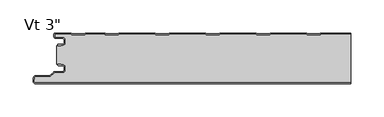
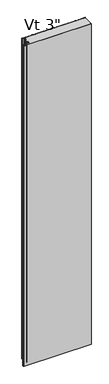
"""IFC4 building model written with IfcOpenShell, lengths in millimetres: plate geometry."""

from ifc_helpers import new_model, si_unit, point, frame, frame_2d, origin, origin_with_axes, place, context, project, spatial, polyline, circle_curve, trimmed, segment, composite_curve, outline, extrude, source, transform, mapped, element, save
from ifc_brep_helpers import plane_surface, cylinder_surface, revolved_surface, advanced_brep


def plate_87e27e4f(model_context):
    return source(origin(), model_context, "Body", "SolidModel", [
        advanced_brep(
        [(-219.9686911, -17.0015243, 2400.0), (-220.9686883, -18.0015275, 2400.0), (-219.9686911, -19.0015188, 2400.0), (-215.9684874, -19.0015188, 2400.0), (-215.9684874, -18.0015243, 2400.0), (-213.2762776, -18.0015243, 2400.0), (-209.9762819, -14.7015286, 2400.0), (-209.9762819, -10.3015374, 2400.0), (-213.2762774, -7.0015419, 2400.0), (-223.6962563, -7.0015419, 2400.0), (-225.4662505, -5.2315477, 2400.0), (-225.4662505, -1.0, 2400.0), (-200.9659739, -1.0, 2400.0), (-199.5803313, -2.2002391, 2400.0), (-180.205165, -2.2002391, 2400.0), (-178.819532, -1.0000084, 2400.0), (-150.1661166, -1.0000084, 2400.0), (-148.7804837, -2.2002391, 2400.0), (-129.4053174, -2.2002391, 2400.0), (-128.0196844, -1.0000084, 2400.0), (-73.966269, -1.0000084, 2400.0), (-72.5806361, -2.2002391, 2400.0), (-53.2054698, -2.2002391, 2400.0), (-51.8198368, -1.0000084, 2400.0), (2.2335786, -1.0000084, 2400.0), (3.6192115, -2.2002391, 2400.0), (22.9943778, -2.2002391, 2400.0), (24.3800108, -1.0000084, 2400.0), (78.4334262, -1.0000084, 2400.0), (79.8190591, -2.2002391, 2400.0), (99.1942254, -2.2002391, 2400.0), (100.5798584, -1.0000084, 2400.0), (154.6332738, -1.0000084, 2400.0), (156.0189067, -2.2002391, 2400.0), (175.394073, -2.2002391, 2400.0), (176.779706, -1.0000084, 2400.0), (221.9999998, -1.0000084, 2400.0), (221.9999998, -8.4e-06, 2400.0), (176.9288571, -8.4e-06, 2400.0), (176.0122402, -0.3417969, 2400.0), (175.0211926, -1.2002391, 2400.0), (156.3917872, -1.2002391, 2400.0), (155.4007395, -0.3417969, 2400.0), (154.4841226, -8.4e-06, 2400.0), (100.7290095, -8.4e-06, 2400.0), (99.8123926, -0.3417969, 2400.0), (98.821345, -1.2002391, 2400.0), (80.1919396, -1.2002391, 2400.0), (79.2008919, -0.3417969, 2400.0), (78.284275, -8.4e-06, 2400.0), (24.5291619, -8.4e-06, 2400.0), (23.612545, -0.3417969, 2400.0), (22.6214974, -1.2002391, 2400.0), (3.992092, -1.2002391, 2400.0), (3.0010443, -0.3417969, 2400.0), (2.0844274, -8.4e-06, 2400.0), (-51.6706857, -8.4e-06, 2400.0), (-52.5873026, -0.3417969, 2400.0), (-53.5783502, -1.2002391, 2400.0), (-72.2077556, -1.2002391, 2400.0), (-73.1988033, -0.3417969, 2400.0), (-74.1154202, -8.4e-06, 2400.0), (-127.8705333, -8.4e-06, 2400.0), (-128.7871502, -0.3417969, 2400.0), (-129.7781978, -1.2002391, 2400.0), (-148.4076032, -1.2002391, 2400.0), (-149.3986509, -0.3417969, 2400.0), (-150.3152678, -8.4e-06, 2400.0), (-178.6703809, -8.4e-06, 2400.0), (-179.5869978, -0.3417969, 2400.0), (-180.5780454, -1.2002391, 2400.0), (-199.2074508, -1.2002391, 2400.0), (-200.1984985, -0.3417969, 2400.0), (-201.1152068, -8.4e-06, 2400.0), (-225.0662544, 0.0, 2400.0), (-226.4662505, -1.3999962, 2400.0), (-226.4662505, -5.2315477, 2400.0), (-223.6962563, -8.0015419, 2400.0), (-213.2762774, -8.0015419, 2400.0), (-210.9762819, -10.3015374, 2400.0), (-210.9762819, -14.7015286, 2400.0), (-213.2762776, -17.0015243, 2400.0), (-219.9686911, -17.0015243, 0.0), (-213.2762776, -17.0015243, 0.0), (-210.9762819, -14.7015286, 0.0), (-210.9762819, -10.3015374, 0.0), (-213.2762774, -8.0015419, 0.0), (-223.6962563, -8.0015419, 0.0), (-226.4662505, -5.2315477, 0.0), (-226.4662505, -1.3999962, 0.0), (-225.0662544, 0.0, 0.0), (-201.1151154, 0.0, 0.0), (-200.1984985, -0.3417969, 0.0), (-199.2074508, -1.2002391, 0.0), (-180.5780454, -1.2002391, 0.0), (-179.5869978, -0.3417969, 0.0), (-178.6703809, -8.4e-06, 0.0), (-150.3152678, -8.4e-06, 0.0), (-149.3986509, -0.3417969, 0.0), (-148.4076032, -1.2002391, 0.0), (-129.7781978, -1.2002391, 0.0), (-128.7871502, -0.3417969, 0.0), (-127.8705333, -8.4e-06, 0.0), (-74.1154202, -8.4e-06, 0.0), (-73.1988033, -0.3417969, 0.0), (-72.2077556, -1.2002391, 0.0), (-53.5783502, -1.2002391, 0.0), (-52.5873026, -0.3417969, 0.0), (-51.6706857, -8.4e-06, 0.0), (2.0844274, -8.4e-06, 0.0), (3.0010443, -0.3417969, 0.0), (3.992092, -1.2002391, 0.0), (22.6214974, -1.2002391, 0.0), (23.612545, -0.3417969, 0.0), (24.5291619, -8.4e-06, 0.0), (78.284275, -8.4e-06, 0.0), (79.2008919, -0.3417969, 0.0), (80.1919396, -1.2002391, 0.0), (98.821345, -1.2002391, 0.0), (99.8123926, -0.3417969, 0.0), (100.7290095, -8.4e-06, 0.0), (154.4841226, -8.4e-06, 0.0), (155.4007395, -0.3417969, 0.0), (156.3917872, -1.2002391, 0.0), (175.0211926, -1.2002391, 0.0), (176.0122402, -0.3417969, 0.0), (176.9288571, -8.4e-06, 0.0), (221.9999998, -8.4e-06, 0.0), (221.9999998, -1.0000084, 0.0), (176.779706, -1.0000084, 0.0), (175.394073, -2.2002391, 0.0), (156.0189067, -2.2002391, 0.0), (154.6332738, -1.0000084, 0.0), (100.5798584, -1.0000084, 0.0), (99.1942254, -2.2002391, 0.0), (79.8190591, -2.2002391, 0.0), (78.4334262, -1.0000084, 0.0), (24.3800108, -1.0000084, 0.0), (22.9943778, -2.2002391, 0.0), (3.6192115, -2.2002391, 0.0), (2.2335786, -1.0000084, 0.0), (-51.8198368, -1.0000084, 0.0), (-53.2054698, -2.2002391, 0.0), (-72.5806361, -2.2002391, 0.0), (-73.966269, -1.0000084, 0.0), (-128.0196844, -1.0000084, 0.0), (-129.4053174, -2.2002391, 0.0), (-148.7804837, -2.2002391, 0.0), (-150.1661166, -1.0000084, 0.0), (-178.819532, -1.0000084, 0.0), (-180.205165, -2.2002391, 0.0), (-199.5803313, -2.2002391, 0.0), (-200.9659739, -1.0, 0.0), (-225.4662505, -1.0, 0.0), (-225.4662505, -5.2315477, 0.0), (-223.6962563, -7.0015419, 0.0), (-213.2762774, -7.0015419, 0.0), (-209.9762819, -10.3015374, 0.0), (-209.9762819, -14.7015286, 0.0), (-213.2762776, -18.0015243, 0.0), (-215.9684874, -18.0015243, 0.0), (-215.9684874, -19.0015188, 0.0), (-219.9686911, -19.0015188, 0.0), (-220.9686883, -18.0015275, 0.0)],
        [
            (0, 1, circle_curve(frame((-219.9686911, -18.0015215, 2400.0), z_axis=(0.0, 0.0, 1.0), x_axis=(1.0, 0.0, 0.0)), 0.9999973)),
            (1, 2, circle_curve(frame((-219.9686911, -18.0015216, 2400.0), z_axis=(0.0, 0.0, 1.0), x_axis=(1.0, 0.0, 0.0)), 0.9999972)),
            (2, 3),
            (3, 4),
            (4, 5),
            (5, 6, circle_curve(frame((-213.2762776, -14.7015286, 2400.0), z_axis=(0.0, 0.0, 1.0), x_axis=(1.0, 0.0, 0.0)), 3.2999957)),
            (6, 7),
            (7, 8, circle_curve(frame((-213.2762774, -10.3015374, 2400.0), z_axis=(0.0, 0.0, 1.0), x_axis=(1.0, 0.0, 0.0)), 3.2999955)),
            (8, 9),
            (9, 10, circle_curve(frame((-223.6962563, -5.2315477, 2400.0), z_axis=(0.0, 0.0, -1.0), x_axis=(1.0, 0.0, 0.0)), 1.7699942)),
            (10, 11),
            (11, 12),
            (12, 13),
            (13, 14),
            (14, 15),
            (15, 16),
            (16, 17),
            (17, 18),
            (18, 19),
            (19, 20),
            (20, 21),
            (21, 22),
            (22, 23),
            (23, 24),
            (24, 25),
            (25, 26),
            (26, 27),
            (27, 28),
            (28, 29),
            (29, 30),
            (30, 31),
            (31, 32),
            (32, 33),
            (33, 34),
            (34, 35),
            (35, 36),
            (36, 37),
            (37, 38),
            (38, 39, circle_curve(frame((176.9288571, -1.4000056, 2400.0), z_axis=(0.0, 0.0, 1.0), x_axis=(1.0, 0.0, 0.0)), 1.3999972)),
            (39, 40),
            (40, 41),
            (41, 42),
            (42, 43, circle_curve(frame((154.4841226, -1.4000056, 2400.0), z_axis=(0.0, 0.0, 1.0), x_axis=(1.0, 0.0, 0.0)), 1.3999972)),
            (43, 44),
            (44, 45, circle_curve(frame((100.7290095, -1.4000056, 2400.0), z_axis=(0.0, 0.0, 1.0), x_axis=(1.0, 0.0, 0.0)), 1.3999972)),
            (45, 46),
            (46, 47),
            (47, 48),
            (48, 49, circle_curve(frame((78.284275, -1.4000056, 2400.0), z_axis=(0.0, 0.0, 1.0), x_axis=(1.0, 0.0, 0.0)), 1.3999972)),
            (49, 50),
            (50, 51, circle_curve(frame((24.5291619, -1.4000056, 2400.0), z_axis=(0.0, 0.0, 1.0), x_axis=(1.0, 0.0, 0.0)), 1.3999972)),
            (51, 52),
            (52, 53),
            (53, 54),
            (54, 55, circle_curve(frame((2.0844274, -1.4000056, 2400.0), z_axis=(0.0, 0.0, 1.0), x_axis=(1.0, 0.0, 0.0)), 1.3999972)),
            (55, 56),
            (56, 57, circle_curve(frame((-51.6706857, -1.4000056, 2400.0), z_axis=(0.0, 0.0, 1.0), x_axis=(1.0, 0.0, 0.0)), 1.3999972)),
            (57, 58),
            (58, 59),
            (59, 60),
            (60, 61, circle_curve(frame((-74.1154202, -1.4000056, 2400.0), z_axis=(0.0, 0.0, 1.0), x_axis=(1.0, 0.0, 0.0)), 1.3999972)),
            (61, 62),
            (62, 63, circle_curve(frame((-127.8705333, -1.4000056, 2400.0), z_axis=(0.0, 0.0, 1.0), x_axis=(1.0, 0.0, 0.0)), 1.3999972)),
            (63, 64),
            (64, 65),
            (65, 66),
            (66, 67, circle_curve(frame((-150.3152678, -1.4000056, 2400.0), z_axis=(0.0, 0.0, 1.0), x_axis=(1.0, 0.0, 0.0)), 1.3999972)),
            (67, 68),
            (68, 69, circle_curve(frame((-178.6703809, -1.4000056, 2400.0), z_axis=(0.0, 0.0, 1.0), x_axis=(1.0, 0.0, 0.0)), 1.3999972)),
            (69, 70),
            (70, 71),
            (71, 72),
            (72, 73, circle_curve(frame((-201.1151154, -1.4000056, 2400.0), z_axis=(0.0, 0.0, 1.0), x_axis=(1.0, 0.0, 0.0)), 1.3999972)),
            (73, 74),
            (74, 75, circle_curve(frame((-225.0662544, -1.3999962, 2400.0), z_axis=(0.0, 0.0, 1.0), x_axis=(1.0, 0.0, 0.0)), 1.3999962)),
            (75, 76),
            (76, 77, circle_curve(frame((-223.6962563, -5.2315477, 2400.0), z_axis=(0.0, 0.0, 1.0), x_axis=(1.0, 0.0, 0.0)), 2.7699942)),
            (77, 78),
            (78, 79, circle_curve(frame((-213.2762774, -10.3015374, 2400.0), z_axis=(0.0, 0.0, -1.0), x_axis=(1.0, 0.0, 0.0)), 2.2999955)),
            (79, 80),
            (80, 81, circle_curve(frame((-213.2762776, -14.7015286, 2400.0), z_axis=(0.0, 0.0, -1.0), x_axis=(1.0, 0.0, 0.0)), 2.2999957)),
            (81, 0),
            (82, 83),
            (83, 84, circle_curve(frame((-213.2762776, -14.7015286, 0.0), z_axis=(0.0, 0.0, 1.0), x_axis=(1.0, 0.0, 0.0)), 2.2999957)),
            (84, 85),
            (85, 86, circle_curve(frame((-213.2762774, -10.3015374, 0.0), z_axis=(0.0, 0.0, 1.0), x_axis=(1.0, 0.0, 0.0)), 2.2999955)),
            (86, 87),
            (87, 88, circle_curve(frame((-223.6962563, -5.2315477, 0.0), z_axis=(0.0, 0.0, -1.0), x_axis=(1.0, 0.0, 0.0)), 2.7699942)),
            (88, 89),
            (89, 90, circle_curve(frame((-225.0662544, -1.3999962, 0.0), z_axis=(0.0, 0.0, -1.0), x_axis=(1.0, 0.0, 0.0)), 1.3999962)),
            (90, 91),
            (91, 92, circle_curve(frame((-201.1151154, -1.4000056, 0.0), z_axis=(0.0, 0.0, -1.0), x_axis=(1.0, 0.0, 0.0)), 1.3999972)),
            (92, 93),
            (93, 94),
            (94, 95),
            (95, 96, circle_curve(frame((-178.6703809, -1.4000056, 0.0), z_axis=(0.0, 0.0, -1.0), x_axis=(1.0, 0.0, 0.0)), 1.3999972)),
            (96, 97),
            (97, 98, circle_curve(frame((-150.3152678, -1.4000056, 0.0), z_axis=(0.0, 0.0, -1.0), x_axis=(1.0, 0.0, 0.0)), 1.3999972)),
            (98, 99),
            (99, 100),
            (100, 101),
            (101, 102, circle_curve(frame((-127.8705333, -1.4000056, 0.0), z_axis=(0.0, 0.0, -1.0), x_axis=(1.0, 0.0, 0.0)), 1.3999972)),
            (102, 103),
            (103, 104, circle_curve(frame((-74.1154202, -1.4000056, 0.0), z_axis=(0.0, 0.0, -1.0), x_axis=(1.0, 0.0, 0.0)), 1.3999972)),
            (104, 105),
            (105, 106),
            (106, 107),
            (107, 108, circle_curve(frame((-51.6706857, -1.4000056, 0.0), z_axis=(0.0, 0.0, -1.0), x_axis=(1.0, 0.0, 0.0)), 1.3999972)),
            (108, 109),
            (109, 110, circle_curve(frame((2.0844274, -1.4000056, 0.0), z_axis=(0.0, 0.0, -1.0), x_axis=(1.0, 0.0, 0.0)), 1.3999972)),
            (110, 111),
            (111, 112),
            (112, 113),
            (113, 114, circle_curve(frame((24.5291619, -1.4000056, 0.0), z_axis=(0.0, 0.0, -1.0), x_axis=(1.0, 0.0, 0.0)), 1.3999972)),
            (114, 115),
            (115, 116, circle_curve(frame((78.284275, -1.4000056, 0.0), z_axis=(0.0, 0.0, -1.0), x_axis=(1.0, 0.0, 0.0)), 1.3999972)),
            (116, 117),
            (117, 118),
            (118, 119),
            (119, 120, circle_curve(frame((100.7290095, -1.4000056, 0.0), z_axis=(0.0, 0.0, -1.0), x_axis=(1.0, 0.0, 0.0)), 1.3999972)),
            (120, 121),
            (121, 122, circle_curve(frame((154.4841226, -1.4000056, 0.0), z_axis=(0.0, 0.0, -1.0), x_axis=(1.0, 0.0, 0.0)), 1.3999972)),
            (122, 123),
            (123, 124),
            (124, 125),
            (125, 126, circle_curve(frame((176.9288571, -1.4000056, 0.0), z_axis=(0.0, 0.0, -1.0), x_axis=(1.0, 0.0, 0.0)), 1.3999972)),
            (126, 127),
            (127, 128),
            (128, 129),
            (129, 130),
            (130, 131),
            (131, 132),
            (132, 133),
            (133, 134),
            (134, 135),
            (135, 136),
            (136, 137),
            (137, 138),
            (138, 139),
            (139, 140),
            (140, 141),
            (141, 142),
            (142, 143),
            (143, 144),
            (144, 145),
            (145, 146),
            (146, 147),
            (147, 148),
            (148, 149),
            (149, 150),
            (150, 151),
            (151, 152),
            (152, 153),
            (153, 154),
            (154, 155, circle_curve(frame((-223.6962563, -5.2315477, 0.0), z_axis=(0.0, 0.0, 1.0), x_axis=(1.0, 0.0, 0.0)), 1.7699942)),
            (155, 156),
            (156, 157, circle_curve(frame((-213.2762774, -10.3015374, 0.0), z_axis=(0.0, 0.0, -1.0), x_axis=(1.0, 0.0, 0.0)), 3.2999955)),
            (157, 158),
            (158, 159, circle_curve(frame((-213.2762776, -14.7015286, 0.0), z_axis=(0.0, 0.0, -1.0), x_axis=(1.0, 0.0, 0.0)), 3.2999957)),
            (159, 160),
            (160, 161),
            (161, 162),
            (162, 163, circle_curve(frame((-219.9686911, -18.0015216, 0.0), z_axis=(0.0, 0.0, -1.0), x_axis=(1.0, 0.0, 0.0)), 0.9999972)),
            (163, 82, circle_curve(frame((-219.9686911, -18.0015215, 0.0), z_axis=(0.0, 0.0, -1.0), x_axis=(1.0, 0.0, 0.0)), 0.9999973)),
            (36, 128),
            (127, 37),
            (81, 83),
            (82, 0),
            (80, 84),
            (79, 85),
            (78, 86),
            (77, 87),
            (76, 88),
            (75, 89),
            (74, 90),
            (73, 91),
            (72, 92),
            (71, 93),
            (70, 94),
            (69, 95),
            (68, 96),
            (67, 97),
            (66, 98),
            (65, 99),
            (64, 100),
            (63, 101),
            (62, 102),
            (61, 103),
            (60, 104),
            (59, 105),
            (58, 106),
            (57, 107),
            (56, 108),
            (55, 109),
            (54, 110),
            (53, 111),
            (52, 112),
            (51, 113),
            (50, 114),
            (49, 115),
            (48, 116),
            (47, 117),
            (46, 118),
            (45, 119),
            (44, 120),
            (43, 121),
            (42, 122),
            (41, 123),
            (40, 124),
            (39, 125),
            (38, 126),
            (35, 129),
            (34, 130),
            (33, 131),
            (32, 132),
            (31, 133),
            (30, 134),
            (29, 135),
            (28, 136),
            (27, 137),
            (26, 138),
            (25, 139),
            (24, 140),
            (23, 141),
            (22, 142),
            (21, 143),
            (20, 144),
            (19, 145),
            (18, 146),
            (17, 147),
            (16, 148),
            (15, 149),
            (14, 150),
            (13, 151),
            (12, 152),
            (11, 153),
            (10, 154),
            (9, 155),
            (8, 156),
            (7, 157),
            (6, 158),
            (5, 159),
            (4, 160),
            (3, 161),
            (2, 162),
            (1, 163),
        ],
        [
            plane_surface(frame((286.0000002, -8.4e-06, 2400.0), z_axis=(0.0, 0.0, 1.0), x_axis=(0.0, 1.0, 0.0))),
            plane_surface(frame((286.0000002, -8.4e-06, 0.0), z_axis=(0.0, 0.0, -1.0), x_axis=(0.0, 1.0, 0.0))),
            plane_surface(frame((221.9999998, -86.2000084, 2400.0), z_axis=(1.0, 0.0, 0.0), x_axis=(0.0, 0.0, -1.0))),
            plane_surface(frame((-219.9686911, -17.0015243, 2400.0), z_axis=(0.0, 1.0, 0.0), x_axis=(0.0, 0.0, -1.0))),
            revolved_surface(polyline([(-210.97628189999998, -14.7015286, 0.0), (-210.97628189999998, -14.7015286, 2400.0)]), (-213.2762776, -14.7015286, 2400.0), (0.0, 0.0, -1.0)),
            plane_surface(frame((-210.9762819, -14.7015286, 2400.0), z_axis=(-1.0, 0.0, 0.0), x_axis=(0.0, 0.0, -1.0))),
            revolved_surface(polyline([(-210.9762819, -10.3015374, 0.0), (-210.9762819, -10.3015374, 2400.0)]), (-213.2762774, -10.3015374, 2400.0), (0.0, 0.0, -1.0)),
            plane_surface(frame((-213.2762774, -8.0015419, 2400.0), z_axis=(0.0, -1.0, 0.0), x_axis=(0.0, 0.0, -1.0))),
            cylinder_surface(frame((-223.6962563, -5.2315477, 2400.0), z_axis=(0.0, 0.0, 1.0), x_axis=(1.0, 0.0, 0.0)), 2.7699942),
            plane_surface(frame((-226.4662505, -5.2315477, 2400.0), z_axis=(-1.0, 0.0, 0.0), x_axis=(0.0, 0.0, -1.0))),
            cylinder_surface(frame((-225.0662544, -1.3999962, 2400.0), z_axis=(0.0, 0.0, 1.0), x_axis=(1.0, 0.0, 0.0)), 1.3999962),
            plane_surface(frame((-225.0662544, 0.0, 2400.0), z_axis=(0.0, 1.0, 0.0), x_axis=(0.0, 0.0, -1.0))),
            cylinder_surface(frame((-201.1151154, -1.4000056, 2400.0), z_axis=(0.0, 0.0, 1.0), x_axis=(1.0, 0.0, 0.0)), 1.3999972),
            plane_surface(frame((-200.1984985, -0.3417969, 2400.0), z_axis=(0.6547276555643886, 0.755864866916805, 0.0), x_axis=(0.0, 0.0, -1.0))),
            plane_surface(frame((-189.8927481, -1.2002391, 2400.0), z_axis=(0.0, 1.0, 0.0), x_axis=(0.0, 0.0, -1.0))),
            plane_surface(frame((-180.5780454, -1.2002391, 2400.0), z_axis=(-0.6547276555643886, 0.755864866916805, 0.0), x_axis=(0.0, 0.0, -1.0))),
            cylinder_surface(frame((-178.6703809, -1.4000056, 2400.0), z_axis=(0.0, 0.0, 1.0), x_axis=(1.0, 0.0, 0.0)), 1.3999972),
            plane_surface(frame((-178.6703809, -8.4e-06, 2400.0), z_axis=(0.0, 1.0, 0.0), x_axis=(0.0, 0.0, -1.0))),
            cylinder_surface(frame((-150.3152678, -1.4000056, 2400.0), z_axis=(0.0, 0.0, 1.0), x_axis=(1.0, 0.0, 0.0)), 1.3999972),
            plane_surface(frame((-149.3986509, -0.3417969, 2400.0), z_axis=(0.6547276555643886, 0.755864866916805, 0.0), x_axis=(0.0, 0.0, -1.0))),
            plane_surface(frame((-139.0929005, -1.2002391, 2400.0), z_axis=(0.0, 1.0, 0.0), x_axis=(0.0, 0.0, -1.0))),
            plane_surface(frame((-129.7781978, -1.2002391, 2400.0), z_axis=(-0.6547276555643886, 0.755864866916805, 0.0), x_axis=(0.0, 0.0, -1.0))),
            cylinder_surface(frame((-127.8705333, -1.4000056, 2400.0), z_axis=(0.0, 0.0, 1.0), x_axis=(1.0, 0.0, 0.0)), 1.3999972),
            plane_surface(frame((-127.8705333, -8.4e-06, 2400.0), z_axis=(0.0, 1.0, 0.0), x_axis=(0.0, 0.0, -1.0))),
            cylinder_surface(frame((-74.1154202, -1.4000056, 2400.0), z_axis=(0.0, 0.0, 1.0), x_axis=(1.0, 0.0, 0.0)), 1.3999972),
            plane_surface(frame((-73.1988033, -0.3417969, 2400.0), z_axis=(0.6547276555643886, 0.755864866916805, 0.0), x_axis=(0.0, 0.0, -1.0))),
            plane_surface(frame((-62.8930529, -1.2002391, 2400.0), z_axis=(0.0, 1.0, 0.0), x_axis=(0.0, 0.0, -1.0))),
            plane_surface(frame((-53.5783502, -1.2002391, 2400.0), z_axis=(-0.6547276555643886, 0.755864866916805, 0.0), x_axis=(0.0, 0.0, -1.0))),
            cylinder_surface(frame((-51.6706857, -1.4000056, 2400.0), z_axis=(0.0, 0.0, 1.0), x_axis=(1.0, 0.0, 0.0)), 1.3999972),
            plane_surface(frame((-51.6706857, -8.4e-06, 2400.0), z_axis=(0.0, 1.0, 0.0), x_axis=(0.0, 0.0, -1.0))),
            cylinder_surface(frame((2.0844274, -1.4000056, 2400.0), z_axis=(0.0, 0.0, 1.0), x_axis=(1.0, 0.0, 0.0)), 1.3999972),
            plane_surface(frame((3.0010443, -0.3417969, 2400.0), z_axis=(0.6547276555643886, 0.755864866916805, 0.0), x_axis=(0.0, 0.0, -1.0))),
            plane_surface(frame((13.3067947, -1.2002391, 2400.0), z_axis=(0.0, 1.0, 0.0), x_axis=(0.0, 0.0, -1.0))),
            plane_surface(frame((22.6214974, -1.2002391, 2400.0), z_axis=(-0.6547276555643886, 0.755864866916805, 0.0), x_axis=(0.0, 0.0, -1.0))),
            cylinder_surface(frame((24.5291619, -1.4000056, 2400.0), z_axis=(0.0, 0.0, 1.0), x_axis=(1.0, 0.0, 0.0)), 1.3999972),
            plane_surface(frame((24.5291619, -8.4e-06, 2400.0), z_axis=(0.0, 1.0, 0.0), x_axis=(0.0, 0.0, -1.0))),
            cylinder_surface(frame((78.284275, -1.4000056, 2400.0), z_axis=(0.0, 0.0, 1.0), x_axis=(1.0, 0.0, 0.0)), 1.3999972),
            plane_surface(frame((79.2008919, -0.3417969, 2400.0), z_axis=(0.6547276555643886, 0.755864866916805, 0.0), x_axis=(0.0, 0.0, -1.0))),
            plane_surface(frame((89.5066423, -1.2002391, 2400.0), z_axis=(0.0, 1.0, 0.0), x_axis=(0.0, 0.0, -1.0))),
            plane_surface(frame((98.821345, -1.2002391, 2400.0), z_axis=(-0.6547276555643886, 0.755864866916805, 0.0), x_axis=(0.0, 0.0, -1.0))),
            cylinder_surface(frame((100.7290095, -1.4000056, 2400.0), z_axis=(0.0, 0.0, 1.0), x_axis=(1.0, 0.0, 0.0)), 1.3999972),
            plane_surface(frame((100.7290095, -8.4e-06, 2400.0), z_axis=(0.0, 1.0, 0.0), x_axis=(0.0, 0.0, -1.0))),
            cylinder_surface(frame((154.4841226, -1.4000056, 2400.0), z_axis=(0.0, 0.0, 1.0), x_axis=(1.0, 0.0, 0.0)), 1.3999972),
            plane_surface(frame((155.4007395, -0.3417969, 2400.0), z_axis=(0.6547276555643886, 0.755864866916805, 0.0), x_axis=(0.0, 0.0, -1.0))),
            plane_surface(frame((165.7064899, -1.2002391, 2400.0), z_axis=(0.0, 1.0, 0.0), x_axis=(0.0, 0.0, -1.0))),
            plane_surface(frame((175.0211926, -1.2002391, 2400.0), z_axis=(-0.6547276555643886, 0.755864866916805, 0.0), x_axis=(0.0, 0.0, -1.0))),
            cylinder_surface(frame((176.9288571, -1.4000056, 2400.0), z_axis=(0.0, 0.0, 1.0), x_axis=(1.0, 0.0, 0.0)), 1.3999972),
            plane_surface(frame((176.9288571, -8.4e-06, 2400.0), z_axis=(0.0, 1.0, 0.0), x_axis=(0.0, 0.0, -1.0))),
            plane_surface(frame((230.8331214, -1.0000084, 2400.0), z_axis=(0.0, -1.0, 0.0), x_axis=(0.0, 0.0, -1.0))),
            plane_surface(frame((176.779706, -1.0000084, 2400.0), z_axis=(0.6547276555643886, -0.755864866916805, 0.0), x_axis=(0.0, 0.0, -1.0))),
            plane_surface(frame((175.394073, -2.2002391, 2400.0), z_axis=(0.0, -1.0, 0.0), x_axis=(0.0, 0.0, -1.0))),
            plane_surface(frame((156.0189067, -2.2002391, 2400.0), z_axis=(-0.6547276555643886, -0.755864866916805, 0.0), x_axis=(0.0, 0.0, -1.0))),
            plane_surface(frame((154.6332738, -1.0000084, 2400.0), z_axis=(0.0, -1.0, 0.0), x_axis=(0.0, 0.0, -1.0))),
            plane_surface(frame((100.5798584, -1.0000084, 2400.0), z_axis=(0.6547276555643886, -0.755864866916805, 0.0), x_axis=(0.0, 0.0, -1.0))),
            plane_surface(frame((99.1942254, -2.2002391, 2400.0), z_axis=(0.0, -1.0, 0.0), x_axis=(0.0, 0.0, -1.0))),
            plane_surface(frame((79.8190591, -2.2002391, 2400.0), z_axis=(-0.6547276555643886, -0.755864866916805, 0.0), x_axis=(0.0, 0.0, -1.0))),
            plane_surface(frame((78.4334262, -1.0000084, 2400.0), z_axis=(0.0, -1.0, 0.0), x_axis=(0.0, 0.0, -1.0))),
            plane_surface(frame((24.3800108, -1.0000084, 2400.0), z_axis=(0.6547276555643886, -0.755864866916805, 0.0), x_axis=(0.0, 0.0, -1.0))),
            plane_surface(frame((22.9943778, -2.2002391, 2400.0), z_axis=(0.0, -1.0, 0.0), x_axis=(0.0, 0.0, -1.0))),
            plane_surface(frame((3.6192115, -2.2002391, 2400.0), z_axis=(-0.6547276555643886, -0.755864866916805, 0.0), x_axis=(0.0, 0.0, -1.0))),
            plane_surface(frame((2.2335786, -1.0000084, 2400.0), z_axis=(0.0, -1.0, 0.0), x_axis=(0.0, 0.0, -1.0))),
            plane_surface(frame((-51.8198368, -1.0000084, 2400.0), z_axis=(0.6547276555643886, -0.755864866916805, 0.0), x_axis=(0.0, 0.0, -1.0))),
            plane_surface(frame((-53.2054698, -2.2002391, 2400.0), z_axis=(0.0, -1.0, 0.0), x_axis=(0.0, 0.0, -1.0))),
            plane_surface(frame((-72.5806361, -2.2002391, 2400.0), z_axis=(-0.6547276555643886, -0.755864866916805, 0.0), x_axis=(0.0, 0.0, -1.0))),
            plane_surface(frame((-73.966269, -1.0000084, 2400.0), z_axis=(0.0, -1.0, 0.0), x_axis=(0.0, 0.0, -1.0))),
            plane_surface(frame((-128.0196844, -1.0000084, 2400.0), z_axis=(0.6547276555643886, -0.755864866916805, 0.0), x_axis=(0.0, 0.0, -1.0))),
            plane_surface(frame((-129.4053174, -2.2002391, 2400.0), z_axis=(0.0, -1.0, 0.0), x_axis=(0.0, 0.0, -1.0))),
            plane_surface(frame((-148.7804837, -2.2002391, 2400.0), z_axis=(-0.6547276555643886, -0.755864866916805, 0.0), x_axis=(0.0, 0.0, -1.0))),
            plane_surface(frame((-150.1661166, -1.0000084, 2400.0), z_axis=(0.0, -1.0, 0.0), x_axis=(0.0, 0.0, -1.0))),
            plane_surface(frame((-178.819532, -1.0000084, 2400.0), z_axis=(0.6547276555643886, -0.755864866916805, 0.0), x_axis=(0.0, 0.0, -1.0))),
            plane_surface(frame((-180.205165, -2.2002391, 2400.0), z_axis=(0.0, -1.0, 0.0), x_axis=(0.0, 0.0, -1.0))),
            plane_surface(frame((-199.5803313, -2.2002391, 2400.0), z_axis=(-0.6547276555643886, -0.755864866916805, 0.0), x_axis=(0.0, 0.0, -1.0))),
            plane_surface(frame((-200.9659739, -1.0, 2400.0), z_axis=(0.0, -1.0, 0.0), x_axis=(0.0, 0.0, -1.0))),
            plane_surface(frame((-225.4662505, -1.0, 2400.0), z_axis=(1.0, 0.0, 0.0), x_axis=(0.0, 0.0, -1.0))),
            revolved_surface(polyline([(-221.92626209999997, -5.2315477, 0.0), (-221.92626209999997, -5.2315477, 2400.0)]), (-223.6962563, -5.2315477, 2400.0), (0.0, 0.0, -1.0)),
            plane_surface(frame((-223.6962563, -7.0015419, 2400.0), z_axis=(0.0, 1.0, 0.0), x_axis=(0.0, 0.0, -1.0))),
            cylinder_surface(frame((-213.2762774, -10.3015374, 2400.0), z_axis=(0.0, 0.0, 1.0), x_axis=(1.0, 0.0, 0.0)), 3.2999955),
            plane_surface(frame((-209.9762819, -10.3015374, 2400.0), z_axis=(1.0, 0.0, 0.0), x_axis=(0.0, 0.0, -1.0))),
            cylinder_surface(frame((-213.2762776, -14.7015286, 2400.0), z_axis=(0.0, 0.0, 1.0), x_axis=(1.0, 0.0, 0.0)), 3.2999957),
            plane_surface(frame((-213.2762776, -18.0015243, 2400.0), z_axis=(0.0, -1.0, 0.0), x_axis=(0.0, 0.0, -1.0))),
            plane_surface(frame((-215.9684874, -18.0015243, 2400.0), z_axis=(1.0, 0.0, 0.0), x_axis=(0.0, 0.0, -1.0))),
            plane_surface(frame((-215.9684874, -19.0015188, 2400.0), z_axis=(0.0, -1.0, 0.0), x_axis=(0.0, 0.0, -1.0))),
            cylinder_surface(frame((-219.9686911, -18.0015216, 2400.0), z_axis=(0.0, 0.0, 1.0), x_axis=(1.0, 0.0, 0.0)), 0.9999972),
            cylinder_surface(frame((-219.9686911, -18.0015215, 2400.0), z_axis=(0.0, 0.0, 1.0), x_axis=(1.0, 0.0, 0.0)), 0.9999973),
        ],
        [
            (0, [[1, 2, 3, 4, 5, 6, 7, 8, 9, 10, 11, 12, 13, 14, 15, 16, 17, 18, 19, 20, 21, 22, 23, 24, 25, 26, 27, 28, 29, 30, 31, 32, 33, 34, 35, 36, 37, 38, 39, 40, 41, 42, 43, 44, 45, 46, 47, 48, 49, 50, 51, 52, 53, 54, 55, 56, 57, 58, 59, 60, 61, 62, 63, 64, 65, 66, 67, 68, 69, 70, 71, 72, 73, 74, 75, 76, 77, 78, 79, 80, 81, 82]]),
            (1, [[83, 84, 85, 86, 87, 88, 89, 90, 91, 92, 93, 94, 95, 96, 97, 98, 99, 100, 101, 102, 103, 104, 105, 106, 107, 108, 109, 110, 111, 112, 113, 114, 115, 116, 117, 118, 119, 120, 121, 122, 123, 124, 125, 126, 127, 128, 129, 130, 131, 132, 133, 134, 135, 136, 137, 138, 139, 140, 141, 142, 143, 144, 145, 146, 147, 148, 149, 150, 151, 152, 153, 154, 155, 156, 157, 158, 159, 160, 161, 162, 163, 164]]),
            (2, [[165, -128, 166, -37]]),
            (3, [[167, -83, 168, -82]]),
            (4, [[169, -84, -167, -81]]),
            (5, [[170, -85, -169, -80]]),
            (6, [[171, -86, -170, -79]]),
            (7, [[172, -87, -171, -78]]),
            (8, [[173, -88, -172, -77]]),
            (9, [[174, -89, -173, -76]]),
            (10, [[175, -90, -174, -75]]),
            (11, [[176, -91, -175, -74]]),
            (12, [[177, -92, -176, -73]]),
            (13, [[178, -93, -177, -72]]),
            (14, [[179, -94, -178, -71]]),
            (15, [[180, -95, -179, -70]]),
            (16, [[181, -96, -180, -69]]),
            (17, [[182, -97, -181, -68]]),
            (18, [[183, -98, -182, -67]]),
            (19, [[184, -99, -183, -66]]),
            (20, [[185, -100, -184, -65]]),
            (21, [[186, -101, -185, -64]]),
            (22, [[187, -102, -186, -63]]),
            (23, [[188, -103, -187, -62]]),
            (24, [[189, -104, -188, -61]]),
            (25, [[190, -105, -189, -60]]),
            (26, [[191, -106, -190, -59]]),
            (27, [[192, -107, -191, -58]]),
            (28, [[193, -108, -192, -57]]),
            (29, [[194, -109, -193, -56]]),
            (30, [[195, -110, -194, -55]]),
            (31, [[196, -111, -195, -54]]),
            (32, [[197, -112, -196, -53]]),
            (33, [[198, -113, -197, -52]]),
            (34, [[199, -114, -198, -51]]),
            (35, [[200, -115, -199, -50]]),
            (36, [[201, -116, -200, -49]]),
            (37, [[202, -117, -201, -48]]),
            (38, [[203, -118, -202, -47]]),
            (39, [[204, -119, -203, -46]]),
            (40, [[205, -120, -204, -45]]),
            (41, [[206, -121, -205, -44]]),
            (42, [[207, -122, -206, -43]]),
            (43, [[208, -123, -207, -42]]),
            (44, [[209, -124, -208, -41]]),
            (45, [[210, -125, -209, -40]]),
            (46, [[211, -126, -210, -39]]),
            (47, [[-38, -166, -127, -211]]),
            (48, [[-129, -165, -36, 212]]),
            (49, [[213, -130, -212, -35]]),
            (50, [[214, -131, -213, -34]]),
            (51, [[215, -132, -214, -33]]),
            (52, [[216, -133, -215, -32]]),
            (53, [[217, -134, -216, -31]]),
            (54, [[218, -135, -217, -30]]),
            (55, [[219, -136, -218, -29]]),
            (56, [[220, -137, -219, -28]]),
            (57, [[221, -138, -220, -27]]),
            (58, [[222, -139, -221, -26]]),
            (59, [[223, -140, -222, -25]]),
            (60, [[224, -141, -223, -24]]),
            (61, [[225, -142, -224, -23]]),
            (62, [[226, -143, -225, -22]]),
            (63, [[227, -144, -226, -21]]),
            (64, [[228, -145, -227, -20]]),
            (65, [[229, -146, -228, -19]]),
            (66, [[230, -147, -229, -18]]),
            (67, [[231, -148, -230, -17]]),
            (68, [[232, -149, -231, -16]]),
            (69, [[233, -150, -232, -15]]),
            (70, [[234, -151, -233, -14]]),
            (71, [[235, -152, -234, -13]]),
            (72, [[236, -153, -235, -12]]),
            (73, [[237, -154, -236, -11]]),
            (74, [[238, -155, -237, -10]]),
            (75, [[239, -156, -238, -9]]),
            (76, [[240, -157, -239, -8]]),
            (77, [[241, -158, -240, -7]]),
            (78, [[242, -159, -241, -6]]),
            (79, [[243, -160, -242, -5]]),
            (80, [[244, -161, -243, -4]]),
            (81, [[245, -162, -244, -3]]),
            (82, [[246, -163, -245, -2]]),
            (83, [[-168, -164, -246, -1]]),
        ],
    ),
        extrude(outline(composite_curve([segment(polyline([(-258.0087619, -72.3184987), (-257.5690674, -67.2944521)]), True, "CONTINUOUS"), segment(trimmed(circle_curve(frame_2d((-253.9198391, -67.9052532)), 3.6999926), [point((-257.5690674, -67.2944521))], [point((-253.9198391, -64.2052606))], False, "CARTESIAN"), True, "CONTINUOUS"), segment(polyline([(-253.9198391, -64.2052606), (-232.7773995, -64.2052606)]), True, "CONTINUOUS"), segment(trimmed(circle_curve(frame_2d((-232.7773995, -62.9052632)), 1.2999974), [point((-232.7773995, -64.2052606))], [point((-231.8581626, -63.8245001))], True, "CARTESIAN"), True, "CONTINUOUS"), segment(polyline([(-231.8581626, -63.8245001), (-227.0297451, -58.9960827)]), True, "CONTINUOUS"), segment(trimmed(circle_curve(frame_2d((-225.1205606, -60.9052672)), 2.6999946), [point((-227.0297451, -58.9960827))], [point((-225.1205606, -58.2052726))], False, "CARTESIAN"), True, "CONTINUOUS"), segment(polyline([(-225.1205606, -58.2052726), (-213.3096715, -58.2052726)]), True, "CONTINUOUS"), segment(trimmed(circle_curve(frame_2d((-213.3096715, -55.8552773)), 2.3499953), [point((-213.3096715, -58.2052726))], [point((-210.9596762, -55.8552773))], True, "CARTESIAN"), True, "CONTINUOUS"), segment(polyline([(-210.9596762, -55.8552773), (-210.9596762, -51.4552861)]), True, "CONTINUOUS"), segment(trimmed(circle_curve(frame_2d((-213.3096715, -51.4552861)), 2.3499953), [point((-210.9596762, -51.4552861))], [point((-213.3096715, -49.1052908))], True, "CARTESIAN"), True, "CONTINUOUS"), segment(polyline([(-213.3096715, -49.1052908), (-219.8289777, -49.1052908)]), True, "CONTINUOUS"), segment(trimmed(circle_curve(frame_2d((-219.7686906, -47.9068085)), 1.1999976), [point((-219.8289777, -49.1052908))], [point((-220.9683, -47.8762866))], False, "CARTESIAN"), True, "CONTINUOUS"), segment(trimmed(circle_curve(frame_2d((-219.7686906, -47.9068085)), 1.1999976), [point((-220.9683, -47.8762866))], [point((-219.767176, -46.7068119))], False, "CARTESIAN"), True, "CONTINUOUS"), segment(polyline([(-219.767176, -46.7068119), (-216.0087826, -46.7068119), (-216.0087826, -48.1052908), (-213.3096715, -48.1052908)]), True, "CONTINUOUS"), segment(trimmed(circle_curve(frame_2d((-213.3096715, -51.4552861)), 3.3499953), [point((-213.3096715, -48.1052908))], [point((-209.9596762, -51.4552861))], False, "CARTESIAN"), True, "CONTINUOUS"), segment(polyline([(-209.9596762, -51.4552861), (-209.9596762, -55.8552773)]), True, "CONTINUOUS"), segment(trimmed(circle_curve(frame_2d((-213.3096715, -55.8552773)), 3.3499953), [point((-209.9596762, -55.8552773))], [point((-213.3096715, -59.2052726))], False, "CARTESIAN"), True, "CONTINUOUS"), segment(polyline([(-213.3096715, -59.2052726), (-225.1205606, -59.2052726)]), True, "CONTINUOUS"), segment(trimmed(circle_curve(frame_2d((-225.1205606, -60.9052672)), 1.6999946), [point((-225.1205606, -59.2052726))], [point((-226.3226383, -59.7031895))], True, "CARTESIAN"), True, "CONTINUOUS"), segment(polyline([(-226.3226383, -59.7031895), (-231.8247094, -65.2052606), (-253.9198391, -65.2052606)]), True, "CONTINUOUS"), segment(trimmed(circle_curve(frame_2d((-253.9198391, -67.9052532)), 2.6999926), [point((-253.9198391, -65.2052606))], [point((-256.5765707, -67.4238626))], True, "CARTESIAN"), True, "CONTINUOUS"), segment(polyline([(-256.5765707, -67.4238626), (-257.0125697, -72.4056834)]), True, "CONTINUOUS"), segment(trimmed(circle_curve(frame_2d((-254.4521175, -72.6297691)), 2.5702393), [point((-257.0125697, -72.4056834))], [point((-254.5094458, -75.1993689))], True, "CARTESIAN"), True, "CONTINUOUS"), segment(polyline([(-254.5094458, -75.1993689), (221.9999998, -75.1993689), (221.9999998, -76.1997037), (-254.4521152, -76.2000084)]), True, "CONTINUOUS"), segment(trimmed(circle_curve(frame_2d((-254.4521175, -72.6297691)), 3.5702393), [point((-254.4521152, -76.2000084))], [point((-258.0087619, -72.3184987))], False, "CARTESIAN"), True, "CONTINUOUS")], self_intersect=False)), origin_with_axes(), (0.0, 0.0, 1.0), 2400.0),
        advanced_brep(
        [(-220.9683, -47.8708833, 2400.0), (-219.767176, -46.7014086, 2400.0), (-216.0087826, -46.7014086, 2400.0), (-216.0087826, -48.0998875, 2400.0), (-213.3096715, -48.0998875, 2400.0), (-209.9596762, -51.4498828, 2400.0), (-209.9596762, -55.849874, 2400.0), (-213.3096715, -59.1998693, 2400.0), (-225.1205606, -59.1998693, 2400.0), (-226.3226383, -59.6977862, 2400.0), (-231.8247094, -65.1998573, 2400.0), (-253.9198391, -65.1998573, 2400.0), (-256.5765707, -67.4184593, 2400.0), (-257.0125697, -72.4002802, 2400.0), (-254.4521175, -75.1946051, 2400.0), (221.9999998, -75.2000084, 2400.0), (221.9999998, -1.0000084, 2400.0), (176.779706, -1.0000084, 2400.0), (175.3940731, -2.2002391, 2400.0), (156.0189068, -2.2002391, 2400.0), (154.6332738, -1.0000084, 2400.0), (100.5798584, -1.0000084, 2400.0), (99.1942255, -2.2002391, 2400.0), (79.8190592, -2.2002391, 2400.0), (78.4334262, -1.0000084, 2400.0), (24.3800108, -1.0000084, 2400.0), (22.9943779, -2.2002391, 2400.0), (3.6192116, -2.2002391, 2400.0), (2.2335786, -1.0000084, 2400.0), (-51.8198368, -1.0000084, 2400.0), (-53.2054697, -2.2002391, 2400.0), (-72.580636, -2.2002391, 2400.0), (-73.966269, -1.0000084, 2400.0), (-128.0196844, -1.0000084, 2400.0), (-129.4053173, -2.2002391, 2400.0), (-148.7804836, -2.2002391, 2400.0), (-150.1661166, -1.0000084, 2400.0), (-178.819532, -1.0000084, 2400.0), (-180.2051649, -2.2002391, 2400.0), (-199.5803312, -2.2002391, 2400.0), (-200.9659738, -1.0, 2400.0), (-225.4662505, -1.0, 2400.0), (-225.4662505, -5.2315473, 2400.0), (-223.6962563, -7.0015415, 2400.0), (-213.2762777, -7.0015415, 2400.0), (-209.9762819, -10.3015374, 2400.0), (-209.9762819, -14.7015286, 2400.0), (-213.2762776, -18.0015243, 2400.0), (-215.9684874, -18.0015243, 2400.0), (-215.9684874, -19.0015188, 2400.0), (-219.968691, -19.0015188, 2400.0), (-220.9686882, -18.0015275, 2400.0), (-221.9999998, -19.0328392, 2400.0), (-221.9999998, -46.8391835, 2400.0), (-220.9683, -47.8708833, 0.0), (-221.9999998, -46.8391835, 0.0), (-221.9999998, -19.0328392, 0.0), (-220.9686882, -18.0015275, 0.0), (-219.968691, -19.0015188, 0.0), (-215.9684874, -19.0015188, 0.0), (-215.9684874, -18.0015243, 0.0), (-213.2762776, -18.0015243, 0.0), (-209.9762819, -14.7015286, 0.0), (-209.9762819, -10.3015374, 0.0), (-213.2762777, -7.0015415, 0.0), (-223.6962563, -7.0015415, 0.0), (-225.4662505, -5.2315473, 0.0), (-225.4662505, -1.0, 0.0), (-200.9659738, -1.0, 0.0), (-199.5803312, -2.2002391, 0.0), (-180.2051649, -2.2002391, 0.0), (-178.819532, -1.0000084, 0.0), (-150.1661166, -1.0000084, 0.0), (-148.7804836, -2.2002391, 0.0), (-129.4053173, -2.2002391, 0.0), (-128.0196844, -1.0000084, 0.0), (-73.966269, -1.0000084, 0.0), (-72.580636, -2.2002391, 0.0), (-53.2054697, -2.2002391, 0.0), (-51.8198368, -1.0000084, 0.0), (2.2335786, -1.0000084, 0.0), (3.6192116, -2.2002391, 0.0), (22.9943779, -2.2002391, 0.0), (24.3800108, -1.0000084, 0.0), (78.4334262, -1.0000084, 0.0), (79.8190592, -2.2002391, 0.0), (99.1942255, -2.2002391, 0.0), (100.5798584, -1.0000084, 0.0), (154.6332738, -1.0000084, 0.0), (156.0189068, -2.2002391, 0.0), (175.3940731, -2.2002391, 0.0), (176.779706, -1.0000084, 0.0), (221.9999998, -1.0000084, 0.0), (221.9999998, -75.2000084, 0.0), (-254.4521175, -75.2000084, 0.0), (-257.0125697, -72.4002802, 0.0), (-256.5765707, -67.4184593, 0.0), (-253.9198391, -65.1998573, 0.0), (-231.8247094, -65.1998573, 0.0), (-226.3226383, -59.6977862, 0.0), (-225.1205606, -59.1998693, 0.0), (-213.3096715, -59.1998693, 0.0), (-209.9596762, -55.849874, 0.0), (-209.9596762, -51.4498828, 0.0), (-213.3096715, -48.0998875, 0.0), (-216.0087826, -48.0998875, 0.0), (-216.0087826, -46.7014086, 0.0), (-219.767176, -46.7014086, 0.0)],
        [
            (0, 1, circle_curve(frame((-219.7686906, -47.9014053, 2400.0), z_axis=(0.0, 0.0, -1.0), x_axis=(-1.0, 0.0, 0.0)), 1.1999976)),
            (1, 2),
            (2, 3),
            (3, 4),
            (4, 5, circle_curve(frame((-213.3096715, -51.4498828, 2400.0), z_axis=(0.0, 0.0, -1.0), x_axis=(-1.0, 0.0, 0.0)), 3.3499953)),
            (5, 6),
            (6, 7, circle_curve(frame((-213.3096715, -55.849874, 2400.0), z_axis=(0.0, 0.0, -1.0), x_axis=(-1.0, 0.0, 0.0)), 3.3499953)),
            (7, 8),
            (8, 9, circle_curve(frame((-225.1205606, -60.8998639, 2400.0), z_axis=(0.0, 0.0, 1.0), x_axis=(-1.0, 0.0, 0.0)), 1.6999946)),
            (9, 10),
            (10, 11),
            (11, 12, circle_curve(frame((-253.9198391, -67.8998499, 2400.0), z_axis=(0.0, 0.0, 1.0), x_axis=(-1.0, 0.0, 0.0)), 2.6999926)),
            (12, 13),
            (13, 14, circle_curve(frame((-254.4521175, -72.6243658, 2400.0), z_axis=(0.0, 0.0, 1.0), x_axis=(-1.0, 0.0, 0.0)), 2.5702393)),
            (14, 15),
            (15, 16),
            (16, 17),
            (17, 18),
            (18, 19),
            (19, 20),
            (20, 21),
            (21, 22),
            (22, 23),
            (23, 24),
            (24, 25),
            (25, 26),
            (26, 27),
            (27, 28),
            (28, 29),
            (29, 30),
            (30, 31),
            (31, 32),
            (32, 33),
            (33, 34),
            (34, 35),
            (35, 36),
            (36, 37),
            (37, 38),
            (38, 39),
            (39, 40),
            (40, 41),
            (41, 42),
            (42, 43, circle_curve(frame((-223.6962563, -5.2315473, 2400.0), z_axis=(0.0, 0.0, 1.0), x_axis=(-1.0, 0.0, 0.0)), 1.7699942)),
            (43, 44),
            (44, 45, circle_curve(frame((-213.2762777, -10.3015374, 2400.0), z_axis=(0.0, 0.0, -1.0), x_axis=(-1.0, 0.0, 0.0)), 3.2999959)),
            (45, 46),
            (46, 47, circle_curve(frame((-213.2762776, -14.7015286, 2400.0), z_axis=(0.0, 0.0, -1.0), x_axis=(-1.0, 0.0, 0.0)), 3.2999957)),
            (47, 48),
            (48, 49),
            (49, 50),
            (50, 51, circle_curve(frame((-219.968691, -18.0015216, 2400.0), z_axis=(0.0, 0.0, -1.0), x_axis=(-1.0, 0.0, 0.0)), 0.9999972)),
            (51, 52),
            (52, 53),
            (53, 0),
            (54, 55),
            (55, 56),
            (56, 57),
            (57, 58, circle_curve(frame((-219.968691, -18.0015216, 0.0), z_axis=(0.0, 0.0, 1.0), x_axis=(-1.0, 0.0, 0.0)), 0.9999972)),
            (58, 59),
            (59, 60),
            (60, 61),
            (61, 62, circle_curve(frame((-213.2762776, -14.7015286, 0.0), z_axis=(0.0, 0.0, 1.0), x_axis=(-1.0, 0.0, 0.0)), 3.2999957)),
            (62, 63),
            (63, 64, circle_curve(frame((-213.2762777, -10.3015374, 0.0), z_axis=(0.0, 0.0, 1.0), x_axis=(-1.0, 0.0, 0.0)), 3.2999959)),
            (64, 65),
            (65, 66, circle_curve(frame((-223.6962563, -5.2315473, 0.0), z_axis=(0.0, 0.0, -1.0), x_axis=(-1.0, 0.0, 0.0)), 1.7699942)),
            (66, 67),
            (67, 68),
            (68, 69),
            (69, 70),
            (70, 71),
            (71, 72),
            (72, 73),
            (73, 74),
            (74, 75),
            (75, 76),
            (76, 77),
            (77, 78),
            (78, 79),
            (79, 80),
            (80, 81),
            (81, 82),
            (82, 83),
            (83, 84),
            (84, 85),
            (85, 86),
            (86, 87),
            (87, 88),
            (88, 89),
            (89, 90),
            (90, 91),
            (91, 92),
            (92, 93),
            (93, 94),
            (94, 95, circle_curve(frame((-254.4521175, -72.6243658, 0.0), z_axis=(0.0, 0.0, -1.0), x_axis=(-1.0, 0.0, 0.0)), 2.5702393)),
            (95, 96),
            (96, 97, circle_curve(frame((-253.9198391, -67.8998499, 0.0), z_axis=(0.0, 0.0, -1.0), x_axis=(-1.0, 0.0, 0.0)), 2.6999926)),
            (97, 98),
            (98, 99),
            (99, 100, circle_curve(frame((-225.1205606, -60.8998639, 0.0), z_axis=(0.0, 0.0, -1.0), x_axis=(-1.0, 0.0, 0.0)), 1.6999946)),
            (100, 101),
            (101, 102, circle_curve(frame((-213.3096715, -55.849874, 0.0), z_axis=(0.0, 0.0, 1.0), x_axis=(-1.0, 0.0, 0.0)), 3.3499953)),
            (102, 103),
            (103, 104, circle_curve(frame((-213.3096715, -51.4498828, 0.0), z_axis=(0.0, 0.0, 1.0), x_axis=(-1.0, 0.0, 0.0)), 3.3499953)),
            (104, 105),
            (105, 106),
            (106, 107),
            (107, 54, circle_curve(frame((-219.7686906, -47.9014053, 0.0), z_axis=(0.0, 0.0, 1.0), x_axis=(-1.0, 0.0, 0.0)), 1.1999976)),
            (53, 55),
            (54, 0),
            (52, 56),
            (93, 15),
            (14, 94),
            (13, 95),
            (12, 96),
            (11, 97),
            (10, 98),
            (9, 99),
            (8, 100),
            (7, 101),
            (6, 102),
            (5, 103),
            (4, 104),
            (3, 105),
            (2, 106),
            (1, 107),
            (92, 16),
            (51, 57),
            (50, 58),
            (49, 59),
            (48, 60),
            (47, 61),
            (46, 62),
            (45, 63),
            (44, 64),
            (43, 65),
            (42, 66),
            (41, 67),
            (40, 68),
            (39, 69),
            (38, 70),
            (37, 71),
            (36, 72),
            (35, 73),
            (34, 74),
            (33, 75),
            (32, 76),
            (31, 77),
            (30, 78),
            (29, 79),
            (28, 80),
            (27, 81),
            (26, 82),
            (25, 83),
            (24, 84),
            (23, 85),
            (22, 86),
            (21, 87),
            (20, 88),
            (19, 89),
            (18, 90),
            (17, 91),
        ],
        [
            plane_surface(frame((286.0000002, -75.2000084, 2400.0), z_axis=(0.0, 0.0, 1.0), x_axis=(0.0, -1.0, 0.0))),
            plane_surface(frame((286.0000002, -75.2000084, 0.0), z_axis=(0.0, 0.0, -1.0), x_axis=(0.0, -1.0, 0.0))),
            plane_surface(frame((-220.9683, -47.8708833, 2400.0), z_axis=(-0.707106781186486, -0.7071067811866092, 0.0), x_axis=(0.0, 0.0, -1.0))),
            plane_surface(frame((-221.9999998, -46.8391835, 2400.0), z_axis=(-1.0, 0.0, 0.0), x_axis=(0.0, 0.0, -1.0))),
            plane_surface(frame((745.5156221, -75.2000084, 2400.0), z_axis=(0.0, -1.0, 0.0), x_axis=(0.0, 0.0, -1.0))),
            cylinder_surface(frame((-254.4521175, -72.6243658, 2400.0), z_axis=(0.0, 0.0, 1.0), x_axis=(-1.0, 0.0, 0.0)), 2.5702393),
            plane_surface(frame((-257.0125697, -72.4002802, 2400.0), z_axis=(-0.9961921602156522, 0.0871847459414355, 0.0), x_axis=(0.0, 0.0, -1.0))),
            cylinder_surface(frame((-253.9198391, -67.8998499, 2400.0), z_axis=(0.0, 0.0, 1.0), x_axis=(-1.0, 0.0, 0.0)), 2.6999926),
            plane_surface(frame((-253.9198391, -65.1998573, 2400.0), z_axis=(0.0, 1.0, 0.0), x_axis=(0.0, 0.0, -1.0))),
            plane_surface(frame((-231.8247094, -65.1998573, 2400.0), z_axis=(-0.7071067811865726, 0.7071067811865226, 0.0), x_axis=(0.0, 0.0, -1.0))),
            cylinder_surface(frame((-225.1205606, -60.8998639, 2400.0), z_axis=(0.0, 0.0, 1.0), x_axis=(-1.0, 0.0, 0.0)), 1.6999946),
            plane_surface(frame((-225.1205606, -59.1998693, 2400.0), z_axis=(0.0, 1.0, 0.0), x_axis=(0.0, 0.0, -1.0))),
            revolved_surface(polyline([(-216.6596668, -55.849874, 0.0), (-216.6596668, -55.849874, 2400.0)]), (-213.3096715, -55.849874, 2400.0), (0.0, 0.0, -1.0)),
            plane_surface(frame((-209.9596762, -55.849874, 2400.0), z_axis=(-1.0, 0.0, 0.0), x_axis=(0.0, 0.0, -1.0))),
            revolved_surface(polyline([(-216.6596668, -51.4498828, 0.0), (-216.6596668, -51.4498828, 2400.0)]), (-213.3096715, -51.4498828, 2400.0), (0.0, 0.0, -1.0)),
            plane_surface(frame((-213.3096715, -48.0998875, 2400.0), z_axis=(0.0, -1.0, 0.0), x_axis=(0.0, 0.0, -1.0))),
            plane_surface(frame((-216.0087826, -48.0998875, 2400.0), z_axis=(-1.0, 0.0, 0.0), x_axis=(0.0, 0.0, -1.0))),
            plane_surface(frame((-216.0087826, -46.7014086, 2400.0), z_axis=(0.0, -1.0, 0.0), x_axis=(0.0, 0.0, -1.0))),
            revolved_surface(polyline([(-220.9686882, -47.9014053, 0.0), (-220.9686882, -47.9014053, 2400.0)]), (-219.7686906, -47.9014053, 2400.0), (0.0, 0.0, -1.0)),
            plane_surface(frame((221.9999998, -86.2000084, 2400.0), z_axis=(1.0, 0.0, 0.0), x_axis=(0.0, 0.0, -1.0))),
            plane_surface(frame((-221.9999998, -19.0328392, 2400.0), z_axis=(-0.7071067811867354, 0.7071067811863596, 0.0), x_axis=(0.0, 0.0, -1.0))),
            revolved_surface(polyline([(-220.9686882, -18.0015216, 0.0), (-220.9686882, -18.0015216, 2400.0)]), (-219.968691, -18.0015216, 2400.0), (0.0, 0.0, -1.0)),
            plane_surface(frame((-219.968691, -19.0015188, 2400.0), z_axis=(0.0, 1.0, 0.0), x_axis=(0.0, 0.0, -1.0))),
            plane_surface(frame((-215.9684874, -19.0015188, 2400.0), z_axis=(-1.0, 0.0, 0.0), x_axis=(0.0, 0.0, -1.0))),
            plane_surface(frame((-215.9684874, -18.0015243, 2400.0), z_axis=(0.0, 1.0, 0.0), x_axis=(0.0, 0.0, -1.0))),
            revolved_surface(polyline([(-216.5762733, -14.7015286, 0.0), (-216.5762733, -14.7015286, 2400.0)]), (-213.2762776, -14.7015286, 2400.0), (0.0, 0.0, -1.0)),
            plane_surface(frame((-209.9762819, -14.7015286, 2400.0), z_axis=(-1.0, 0.0, 0.0), x_axis=(0.0, 0.0, -1.0))),
            revolved_surface(polyline([(-216.5762736, -10.3015374, 0.0), (-216.5762736, -10.3015374, 2400.0)]), (-213.2762777, -10.3015374, 2400.0), (0.0, 0.0, -1.0)),
            plane_surface(frame((-213.2762777, -7.0015415, 2400.0), z_axis=(0.0, -1.0, 0.0), x_axis=(0.0, 0.0, -1.0))),
            cylinder_surface(frame((-223.6962563, -5.2315473, 2400.0), z_axis=(0.0, 0.0, 1.0), x_axis=(-1.0, 0.0, 0.0)), 1.7699942),
            plane_surface(frame((-225.4662505, -5.2315473, 2400.0), z_axis=(-1.0, 0.0, 0.0), x_axis=(0.0, 0.0, -1.0))),
            plane_surface(frame((-225.4662505, -1.0, 2400.0), z_axis=(0.0, 1.0, 0.0), x_axis=(0.0, 0.0, -1.0))),
            plane_surface(frame((-200.9659738, -1.0, 2400.0), z_axis=(0.6547276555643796, 0.7558648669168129, 0.0), x_axis=(0.0, 0.0, -1.0))),
            plane_surface(frame((-199.5803312, -2.2002391, 2400.0), z_axis=(0.0, 1.0, 0.0), x_axis=(0.0, 0.0, -1.0))),
            plane_surface(frame((-180.2051649, -2.2002391, 2400.0), z_axis=(-0.6547276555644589, 0.7558648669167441, 0.0), x_axis=(0.0, 0.0, -1.0))),
            plane_surface(frame((-178.819532, -1.0000084, 2400.0), z_axis=(0.0, 1.0, 0.0), x_axis=(0.0, 0.0, -1.0))),
            plane_surface(frame((-150.1661166, -1.0000084, 2400.0), z_axis=(0.6547276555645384, 0.7558648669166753, 0.0), x_axis=(0.0, 0.0, -1.0))),
            plane_surface(frame((-148.7804836, -2.2002391, 2400.0), z_axis=(0.0, 1.0, 0.0), x_axis=(0.0, 0.0, -1.0))),
            plane_surface(frame((-129.4053173, -2.2002391, 2400.0), z_axis=(-0.6547276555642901, 0.7558648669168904, 0.0), x_axis=(0.0, 0.0, -1.0))),
            plane_surface(frame((-128.0196844, -1.0000084, 2400.0), z_axis=(0.0, 1.0, 0.0), x_axis=(0.0, 0.0, -1.0))),
            plane_surface(frame((-73.966269, -1.0000084, 2400.0), z_axis=(0.6547276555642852, 0.7558648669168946, 0.0), x_axis=(0.0, 0.0, -1.0))),
            plane_surface(frame((-72.580636, -2.2002391, 2400.0), z_axis=(0.0, 1.0, 0.0), x_axis=(0.0, 0.0, -1.0))),
            plane_surface(frame((-53.2054697, -2.2002391, 2400.0), z_axis=(-0.6547276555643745, 0.7558648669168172, 0.0), x_axis=(0.0, 0.0, -1.0))),
            plane_surface(frame((-51.8198368, -1.0000084, 2400.0), z_axis=(0.0, 1.0, 0.0), x_axis=(0.0, 0.0, -1.0))),
            plane_surface(frame((2.2335786, -1.0000084, 2400.0), z_axis=(0.6547276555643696, 0.7558648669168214, 0.0), x_axis=(0.0, 0.0, -1.0))),
            plane_surface(frame((3.6192116, -2.2002391, 2400.0), z_axis=(0.0, 1.0, 0.0), x_axis=(0.0, 0.0, -1.0))),
            plane_surface(frame((22.9943779, -2.2002391, 2400.0), z_axis=(-0.6547276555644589, 0.7558648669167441, 0.0), x_axis=(0.0, 0.0, -1.0))),
            plane_surface(frame((24.3800108, -1.0000084, 2400.0), z_axis=(0.0, 1.0, 0.0), x_axis=(0.0, 0.0, -1.0))),
            plane_surface(frame((78.4334262, -1.0000084, 2400.0), z_axis=(0.654727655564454, 0.7558648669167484, 0.0), x_axis=(0.0, 0.0, -1.0))),
            plane_surface(frame((79.8190592, -2.2002391, 2400.0), z_axis=(0.0, 1.0, 0.0), x_axis=(0.0, 0.0, -1.0))),
            plane_surface(frame((99.1942255, -2.2002391, 2400.0), z_axis=(-0.6547276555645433, 0.7558648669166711, 0.0), x_axis=(0.0, 0.0, -1.0))),
            plane_surface(frame((100.5798584, -1.0000084, 2400.0), z_axis=(0.0, 1.0, 0.0), x_axis=(0.0, 0.0, -1.0))),
            plane_surface(frame((154.6332738, -1.0000084, 2400.0), z_axis=(0.6547276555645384, 0.7558648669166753, 0.0), x_axis=(0.0, 0.0, -1.0))),
            plane_surface(frame((156.0189068, -2.2002391, 2400.0), z_axis=(0.0, 1.0, 0.0), x_axis=(0.0, 0.0, -1.0))),
            plane_surface(frame((175.3940731, -2.2002391, 2400.0), z_axis=(-0.654727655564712, 0.755864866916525, 0.0), x_axis=(0.0, 0.0, -1.0))),
            plane_surface(frame((176.779706, -1.0000084, 2400.0), z_axis=(0.0, 1.0, 0.0), x_axis=(0.0, 0.0, -1.0))),
        ],
        [
            (0, [[1, 2, 3, 4, 5, 6, 7, 8, 9, 10, 11, 12, 13, 14, 15, 16, 17, 18, 19, 20, 21, 22, 23, 24, 25, 26, 27, 28, 29, 30, 31, 32, 33, 34, 35, 36, 37, 38, 39, 40, 41, 42, 43, 44, 45, 46, 47, 48, 49, 50, 51, 52, 53, 54]]),
            (1, [[55, 56, 57, 58, 59, 60, 61, 62, 63, 64, 65, 66, 67, 68, 69, 70, 71, 72, 73, 74, 75, 76, 77, 78, 79, 80, 81, 82, 83, 84, 85, 86, 87, 88, 89, 90, 91, 92, 93, 94, 95, 96, 97, 98, 99, 100, 101, 102, 103, 104, 105, 106, 107, 108]]),
            (2, [[109, -55, 110, -54]]),
            (3, [[-53, 111, -56, -109]]),
            (4, [[-94, 112, -15, 113]]),
            (5, [[114, -95, -113, -14]]),
            (6, [[115, -96, -114, -13]]),
            (7, [[116, -97, -115, -12]]),
            (8, [[117, -98, -116, -11]]),
            (9, [[118, -99, -117, -10]]),
            (10, [[119, -100, -118, -9]]),
            (11, [[120, -101, -119, -8]]),
            (12, [[121, -102, -120, -7]]),
            (13, [[122, -103, -121, -6]]),
            (14, [[123, -104, -122, -5]]),
            (15, [[124, -105, -123, -4]]),
            (16, [[125, -106, -124, -3]]),
            (17, [[126, -107, -125, -2]]),
            (18, [[-110, -108, -126, -1]]),
            (19, [[-112, -93, 127, -16]]),
            (20, [[128, -57, -111, -52]]),
            (21, [[129, -58, -128, -51]]),
            (22, [[130, -59, -129, -50]]),
            (23, [[131, -60, -130, -49]]),
            (24, [[132, -61, -131, -48]]),
            (25, [[133, -62, -132, -47]]),
            (26, [[134, -63, -133, -46]]),
            (27, [[135, -64, -134, -45]]),
            (28, [[136, -65, -135, -44]]),
            (29, [[137, -66, -136, -43]]),
            (30, [[138, -67, -137, -42]]),
            (31, [[139, -68, -138, -41]]),
            (32, [[140, -69, -139, -40]]),
            (33, [[141, -70, -140, -39]]),
            (34, [[142, -71, -141, -38]]),
            (35, [[143, -72, -142, -37]]),
            (36, [[144, -73, -143, -36]]),
            (37, [[145, -74, -144, -35]]),
            (38, [[146, -75, -145, -34]]),
            (39, [[147, -76, -146, -33]]),
            (40, [[148, -77, -147, -32]]),
            (41, [[149, -78, -148, -31]]),
            (42, [[150, -79, -149, -30]]),
            (43, [[151, -80, -150, -29]]),
            (44, [[152, -81, -151, -28]]),
            (45, [[153, -82, -152, -27]]),
            (46, [[154, -83, -153, -26]]),
            (47, [[155, -84, -154, -25]]),
            (48, [[156, -85, -155, -24]]),
            (49, [[157, -86, -156, -23]]),
            (50, [[158, -87, -157, -22]]),
            (51, [[159, -88, -158, -21]]),
            (52, [[160, -89, -159, -20]]),
            (53, [[161, -90, -160, -19]]),
            (54, [[162, -91, -161, -18]]),
            (55, [[-17, -127, -92, -162]]),
        ],
    ),
    ])


if __name__ == "__main__":
    model = new_model("IFC4")
    model_context = context("Model", 3, world=origin())
    ifc_project = project(units=[si_unit("LENGTHUNIT", "METRE", prefix="MILLI")], contexts=[model_context])
    site = spatial("IfcSite", under=ifc_project)
    building = spatial("IfcBuilding", under=site)
    placement = place(None, origin())
    plate_shape = plate_87e27e4f(model_context)
    element("IfcPlate", 1, ObjectType="KIP-40-Karrier-KP-R19-CP-Vt-FL3-8in_SL : Vt 3\"", at=placement, inside=building, context=model_context, shape_type="MappedRepresentation", body=[
        mapped(plate_shape, transform((0.0, 0.0, 0.0), x_axis=(1.0, 0.0, 0.0), y_axis=(0.0, 1.0, 0.0), z_axis=(0.0, 0.0, 1.0))),
    ])
    save(model, "model.ifc")
